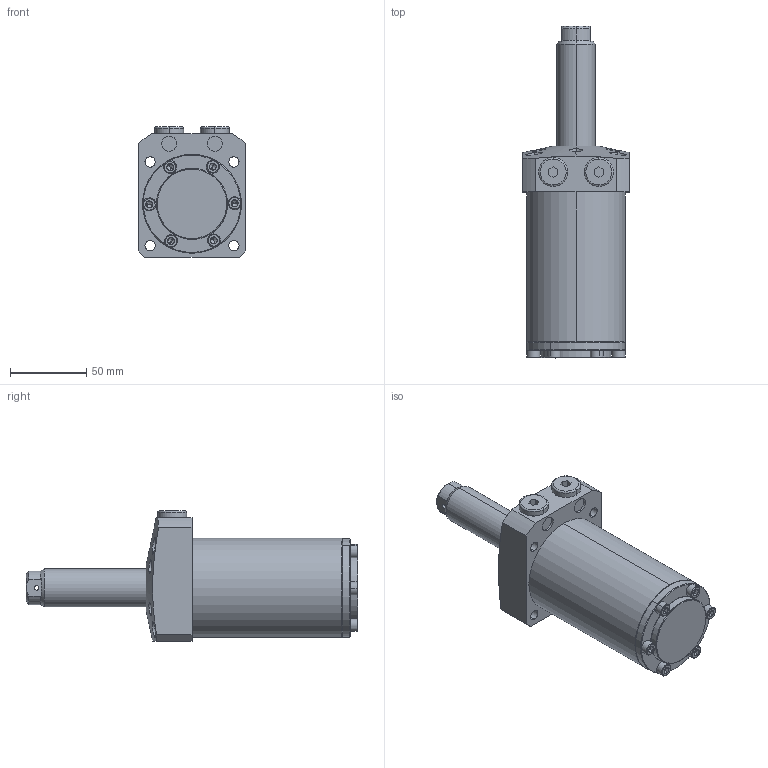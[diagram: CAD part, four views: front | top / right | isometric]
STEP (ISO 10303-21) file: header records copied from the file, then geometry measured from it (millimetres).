
FILE_DESCRIPTION (( 'STEP AP203' ), '1' );
FILE_NAME ('680650-CB-076.step', '2016-11-02T03:25:36', ( 'wxp' ), ( '' ), 'SwSTEP 2.0', 'SolidWorks 2011', '' );
FILE_SCHEMA (( 'CONFIG_CONTROL_DESIGN' ));
Length unit declared in the file: millimetre
Products named in the file (7): 680650-CB-076; 葩璃 LL065-CA-51-6^680650-CB-076; 葩璃 LL065-CA-51-5^680650-CB-076; 葩璃 LL065-CA-51-4^680650-CB-076; 葩璃 LL065-CA-51-3^680650-CB-076; 葩璃 LL065-CA-51-2^680650-CB-076; 葩璃 LL065-CA-51-1^680650-CB-076
Assembly tree (17 placements, depth 2):
  680650-CB-076
    葩璃 LL065-CA-51-5^680650-CB-076  x6
    葩璃 LL065-CA-51-1^680650-CB-076
    葩璃 LL065-CA-51-4^680650-CB-076  x6
    葩璃 LL065-CA-51-3^680650-CB-076
    葩璃 LL065-CA-51-6^680650-CB-076  x2
    葩璃 LL065-CA-51-2^680650-CB-076
Bounding box: 70 x 218 x 85.5 mm (x, y, z)
Volume: 504568.8 mm3; surface area: 76191.7 mm2
Topology: 17 solids, 17 shells, 553 faces, 1049 edges, 552 vertices
Faces by surface type: plane 236, cone 168, cylinder 133, torus 16
Entity records: 7795 total; most frequent: CARTESIAN_POINT 1981, DIRECTION 1097, ORIENTED_EDGE 902, AXIS2_PLACEMENT_3D 459, EDGE_CURVE 451, VERTEX_POINT 270, EDGE_LOOP 265, CIRCLE 222
